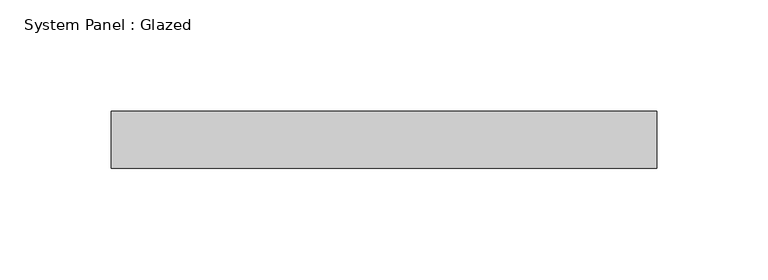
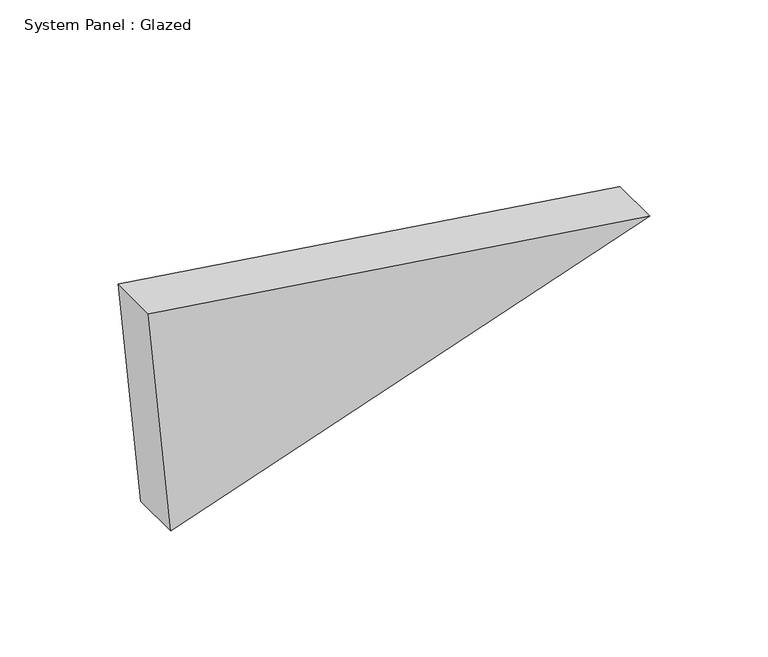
"""IFC4 building model written with IfcOpenShell, lengths in millimetres: plate geometry, System Panel : Glazed."""

import ifcopenshell
import ifcopenshell.guid

model = None  # the IFC model being written
_history = None  # IfcOwnerHistory: only IFC2X3 demands one
_inside = {}  # id of a spatial element -> (the spatial element, [elements in it])
_under = {}  # id of a project, library or spatial element -> (it, [spatial elements below it])
_declared = {}  # id of a project -> (the project, [libraries it declares])
_typed = {}  # id of a type object -> (the type object, [elements of that type])
_made_of = {}  # id of a material, layer set ... -> (it, [elements and type objects made of it])


def new_model(schema):
    """Start an empty IFC model of exactly this schema.

    Asked for "IFC4X3", IfcOpenShell would pick the latest addendum, in which some entities
    have other attributes; the version numbers below select the first issue.
    IFC2X3 requires an IfcOwnerHistory on every rooted entity: one is made here for all.
    """
    global model, _history
    if schema == "IFC4X3":
        model = ifcopenshell.file(schema_version=(4, 3, 0, 0))
    else:
        model = ifcopenshell.file(schema=schema)
    _inside.clear()
    _under.clear()
    _declared.clear()
    _typed.clear()
    _made_of.clear()
    _history = None
    if model.schema == "IFC2X3":
        org = make("IfcOrganization", Name="unknown")
        user = make(
            "IfcPersonAndOrganization",
            ThePerson=make("IfcPerson", FamilyName="unknown"),
            TheOrganization=org,
        )
        app = make(
            "IfcApplication",
            ApplicationDeveloper=org,
            Version="unknown",
            ApplicationFullName="unknown",
            ApplicationIdentifier="unknown",
        )
        _history = make(
            "IfcOwnerHistory",
            OwningUser=user,
            OwningApplication=app,
            ChangeAction="ADDED",
            CreationDate=0,
        )
    return model


def make(cls, **values):
    """One entity of the class cls with the attributes given. An attribute that is None is left unset."""
    return model.create_entity(
        cls, **{name: value for name, value in values.items() if value is not None}
    )


def rooted(cls, **values):
    """An entity with a GlobalId (a new one), such as an element, a storey or a relation."""
    return make(cls, GlobalId=ifcopenshell.guid.new(), OwnerHistory=_history, **values)


def si_unit(unit_type, name, prefix=None):
    """IfcSIUnit, for example si_unit("LENGTHUNIT", "METRE", prefix="MILLI")."""
    return make("IfcSIUnit", UnitType=unit_type, Prefix=prefix, Name=name)


def assignment(units):
    """IfcUnitAssignment: the units of a project."""
    return None if units is None else make("IfcUnitAssignment", Units=units)


def point(xyz):
    """IfcCartesianPoint."""
    return None if xyz is None else make("IfcCartesianPoint", Coordinates=xyz)


def direction(xyz):
    """IfcDirection."""
    return None if xyz is None else make("IfcDirection", DirectionRatios=xyz)


def frame(location, z_axis=None, x_axis=None):
    """IfcAxis2Placement3D, a coordinate frame: its origin and axes. An axis left out is left unset."""
    return make(
        "IfcAxis2Placement3D",
        Location=point(location),
        Axis=direction(z_axis),
        RefDirection=direction(x_axis),
    )


def origin():
    """The frame at (0, 0, 0) with its axes left unset."""
    return frame((0.0, 0.0, 0.0))


def place(relative_to, where):
    """IfcLocalPlacement: puts the frame where relative to a parent placement (None: the world)."""
    return make(
        "IfcLocalPlacement", PlacementRelTo=relative_to, RelativePlacement=where
    )


def context(
    kind, dimensions, precision=None, world=None, true_north=None, identifier=None
):
    """IfcGeometricRepresentationContext, for example the 3D "Model" context."""
    return make(
        "IfcGeometricRepresentationContext",
        ContextIdentifier=identifier,
        ContextType=kind,
        CoordinateSpaceDimension=dimensions,
        Precision=precision,
        WorldCoordinateSystem=world,
        TrueNorth=true_north,
    )


def project(units=None, contexts=None):
    """IfcProject with its units and contexts."""
    return rooted(
        "IfcProject",
        Name="project",
        RepresentationContexts=contexts,
        UnitsInContext=assignment(units),
    )


def spatial(cls, under=None, at=None, **own):
    """A site, building, storey or space (cls), placed at a placement, below another one or the project."""
    s = rooted(cls, ObjectPlacement=at, **own)
    if under is not None:
        _under.setdefault(under.id(), (under, []))[1].append(s)
    return s


def polyline(points):
    """IfcPolyline through the points."""
    return make("IfcPolyline", Points=[point(p) for p in points])


def outline(outer, holes=None, kind="AREA"):
    """IfcArbitraryClosedProfileDef: a profile drawn as a closed curve; with holes, ...WithVoids."""
    if holes is None:
        return make("IfcArbitraryClosedProfileDef", ProfileType=kind, OuterCurve=outer)
    return make(
        "IfcArbitraryProfileDefWithVoids",
        ProfileType=kind,
        OuterCurve=outer,
        InnerCurves=holes,
    )


def extrude(swept, where, along, depth):
    """IfcExtrudedAreaSolid: the profile swept, set in the frame where, extruded along a direction by depth."""
    return make(
        "IfcExtrudedAreaSolid",
        SweptArea=swept,
        Position=where,
        ExtrudedDirection=direction(along),
        Depth=depth,
    )


def shape(context_of_items, identifier, shape_type, items):
    """IfcShapeRepresentation: the items that make up one representation, for example the "Body"."""
    return make(
        "IfcShapeRepresentation",
        ContextOfItems=context_of_items,
        RepresentationIdentifier=identifier,
        RepresentationType=shape_type,
        Items=items,
    )


def source(mapping_origin, context_of_items, identifier, shape_type, items):
    """IfcRepresentationMap: a shape defined once, which mapped items show again and again."""
    return make(
        "IfcRepresentationMap",
        MappingOrigin=mapping_origin,
        MappedRepresentation=shape(context_of_items, identifier, shape_type, items),
    )


def transform(
    local_origin,
    x_axis=None,
    y_axis=None,
    z_axis=None,
    scale=None,
    scale2=None,
    scale3=None,
    uniform=True,
):
    """IfcCartesianTransformationOperator3D, or its non-uniform kind. x_axis, y_axis, z_axis: its Axis1, 2, 3."""
    if uniform:
        return make(
            "IfcCartesianTransformationOperator3D",
            Axis1=direction(x_axis),
            Axis2=direction(y_axis),
            LocalOrigin=point(local_origin),
            Scale=scale,
            Axis3=direction(z_axis),
        )
    return make(
        "IfcCartesianTransformationOperator3DnonUniform",
        Axis1=direction(x_axis),
        Axis2=direction(y_axis),
        LocalOrigin=point(local_origin),
        Scale=scale,
        Axis3=direction(z_axis),
        Scale2=scale2,
        Scale3=scale3,
    )


def mapped(mapping_source, mapping_target):
    """IfcMappedItem: shows the shape of a source again, moved by a transform."""
    return make(
        "IfcMappedItem", MappingSource=mapping_source, MappingTarget=mapping_target
    )


def made_of(thing, what):
    """Note that an element or type object is made of a material, layer set ...; save() writes the relation."""
    if what is not None:
        _made_of.setdefault(what.id(), (what, []))[1].append(thing)
    return thing


def element(
    cls,
    number,
    at=None,
    inside=None,
    cuts=None,
    type_object=None,
    material=None,
    context=None,
    identifier="Body",
    shape_type=None,
    held_by="IfcProductDefinitionShape",
    body=None,
    shapes=None,
    **own,
):
    """One element of the class cls, such as IfcWall. Its Tag is "e" and its number.

    at: its placement. inside: the storey or other place that contains it. cuts: it is an
    opening in that element (IfcRelVoidsElement). A single representation is given by context,
    identifier, shape_type and body (its items); several are given by shapes. held_by: the class
    of the entity that holds the representations. save() writes the other relations.
    """
    e = rooted(cls, Tag="e%d" % number, ObjectPlacement=at, **own)
    if body is not None:
        shapes = [shape(context, identifier, shape_type, body)]
    if shapes is not None:
        e.Representation = make(held_by, Representations=shapes)
    if inside is not None:
        _inside.setdefault(inside.id(), (inside, []))[1].append(e)
    if cuts is not None:
        rooted(
            "IfcRelVoidsElement", RelatingBuildingElement=cuts, RelatedOpeningElement=e
        )
    if type_object is not None:
        _typed.setdefault(type_object.id(), (type_object, []))[1].append(e)
    return made_of(e, material)


def aggregate(whole, parts):
    """IfcRelAggregates: a whole, such as a stair, and the parts it consists of."""
    return rooted("IfcRelAggregates", RelatingObject=whole, RelatedObjects=parts)


def save(model, path):
    """Write the relations noted so far, then the file.

    IfcRelAggregates (storeys below a building ...), IfcRelContainedInSpatialStructure (elements
    in a storey), IfcRelDefinesByType, IfcRelAssociatesMaterial and IfcRelDeclares: one each for
    every whole, place, type object, material and project.
    """
    for whole, parts in _under.values():
        aggregate(whole, parts)
    for where, things in _inside.values():
        rooted(
            "IfcRelContainedInSpatialStructure",
            RelatedElements=things,
            RelatingStructure=where,
        )
    for kind, things in _typed.values():
        rooted("IfcRelDefinesByType", RelatedObjects=things, RelatingType=kind)
    for what, things in _made_of.values():
        rooted("IfcRelAssociatesMaterial", RelatedObjects=things, RelatingMaterial=what)
    for by, libraries in _declared.values():
        rooted("IfcRelDeclares", RelatingContext=by, RelatedDefinitions=libraries)
    model.write(path)


def system_panel_glazed_463f83c8(model_context):
    return source(origin(), model_context, "Body", "SweptSolid", [
        extrude(outline(polyline([(0.0, -111.2715934), (80.694263, 122.2976882), (115.8976043, -122.2976882), (0.0, -111.2715934)])), frame((0.0, -44.45, 0.0), z_axis=(0.0, 1.0, 0.0), x_axis=(0.0, 0.0, 1.0)), (0.0, 0.0, 1.0), 25.4),
    ])


if __name__ == "__main__":
    model = new_model("IFC4")
    model_context = context("Model", 3, world=origin())
    ifc_project = project(units=[si_unit("LENGTHUNIT", "METRE", prefix="MILLI")], contexts=[model_context])
    site = spatial("IfcSite", under=ifc_project)
    building = spatial("IfcBuilding", under=site)
    placement = place(None, origin())
    system_panel_glazed_shape = system_panel_glazed_463f83c8(model_context)
    element("IfcPlate", 1, ObjectType="System Panel : Glazed", at=placement, inside=building, context=model_context, shape_type="MappedRepresentation", body=[
        mapped(system_panel_glazed_shape, transform((0.0, 0.0, 0.0), x_axis=(1.0, 0.0, 0.0), y_axis=(0.0, 1.0, 0.0), z_axis=(0.0, 0.0, 1.0))),
    ])
    save(model, "model.ifc")
